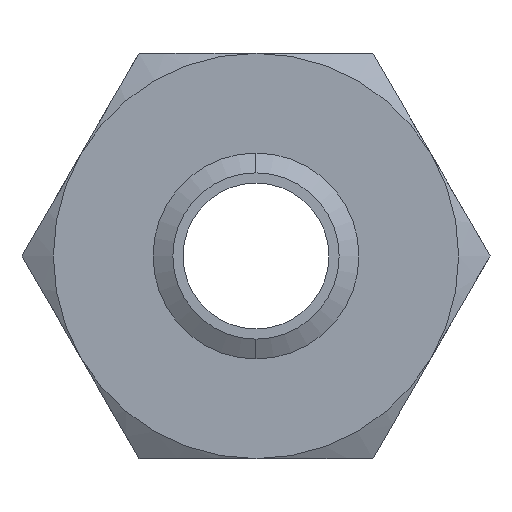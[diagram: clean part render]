
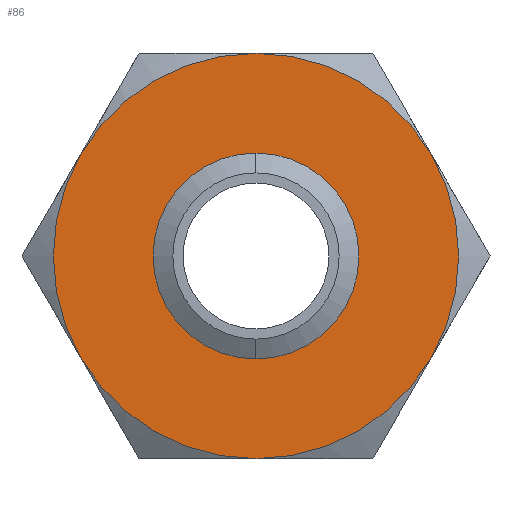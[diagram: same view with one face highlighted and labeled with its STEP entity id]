
A CAD part, front view. The second image highlights one B-rep face of the part: STEP entity #86.
In plain terms, the highlighted planar face has unit normal (0, -1, 0).
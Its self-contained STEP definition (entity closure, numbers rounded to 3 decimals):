
#58 = EDGE_CURVE ( 'NONE', #91, #71, #453, .T. ) ;
#59 = EDGE_LOOP ( 'NONE', ( #60, #61 ) ) ;
#60 = ORIENTED_EDGE ( 'NONE', *, *, #2152, .F. ) ;
#61 = ORIENTED_EDGE ( 'NONE', *, *, #62, .F. ) ;
#62 = EDGE_CURVE ( 'NONE', #2132, #2147, #448, .T. ) ;
#71 = VERTEX_POINT ( 'NONE', #492 ) ;
#86 = ADVANCED_FACE ( 'NONE', ( #516, #515 ), #514, .F. ) ;
#87 = EDGE_LOOP ( 'NONE', ( #88, #92, #95, #98, #101, #113 ) ) ;
#88 = ORIENTED_EDGE ( 'NONE', *, *, #89, .F. ) ;
#89 = EDGE_CURVE ( 'NONE', #90, #91, #511, .T. ) ;
#90 = VERTEX_POINT ( 'NONE', #504 ) ;
#91 = VERTEX_POINT ( 'NONE', #503 ) ;
#92 = ORIENTED_EDGE ( 'NONE', *, *, #93, .F. ) ;
#93 = EDGE_CURVE ( 'NONE', #94, #90, #502, .T. ) ;
#94 = VERTEX_POINT ( 'NONE', #559 ) ;
#95 = ORIENTED_EDGE ( 'NONE', *, *, #96, .F. ) ;
#96 = EDGE_CURVE ( 'NONE', #97, #94, #558, .T. ) ;
#97 = VERTEX_POINT ( 'NONE', #553 ) ;
#98 = ORIENTED_EDGE ( 'NONE', *, *, #99, .F. ) ;
#99 = EDGE_CURVE ( 'NONE', #100, #97, #552, .T. ) ;
#100 = VERTEX_POINT ( 'NONE', #547 ) ;
#101 = ORIENTED_EDGE ( 'NONE', *, *, #102, .F. ) ;
#102 = EDGE_CURVE ( 'NONE', #71, #100, #546, .T. ) ;
#113 = ORIENTED_EDGE ( 'NONE', *, *, #58, .F. ) ;
#444 = DIRECTION ( 'NONE',  ( 0., 0., -1. ) ) ;
#445 = DIRECTION ( 'NONE',  ( 0., -1., 0. ) ) ;
#446 = CARTESIAN_POINT ( 'NONE',  ( 0., 0., 0. ) ) ;
#447 = AXIS2_PLACEMENT_3D ( 'NONE', #446, #445, #444 ) ;
#448 = CIRCLE ( 'NONE', #447, 15.387 ) ;
#449 = DIRECTION ( 'NONE',  ( 0., 0., 1. ) ) ;
#450 = DIRECTION ( 'NONE',  ( 0., 1., 0. ) ) ;
#451 = CARTESIAN_POINT ( 'NONE',  ( 0., 0., 0. ) ) ;
#452 = AXIS2_PLACEMENT_3D ( 'NONE', #451, #450, #449 ) ;
#453 = CIRCLE ( 'NONE', #452, 37.5 ) ;
#492 = CARTESIAN_POINT ( 'NONE',  ( 32.476, 0., -18.75 ) ) ;
#501 = AXIS2_PLACEMENT_3D ( 'NONE', #562, #561, #560 ) ;
#502 = CIRCLE ( 'NONE', #501, 37.5 ) ;
#503 = CARTESIAN_POINT ( 'NONE',  ( 32.476, 0., 18.75 ) ) ;
#504 = CARTESIAN_POINT ( 'NONE',  ( 0., 0., 37.5 ) ) ;
#505 = DIRECTION ( 'NONE',  ( 0., 0., 1. ) ) ;
#506 = DIRECTION ( 'NONE',  ( 0., 1., 0. ) ) ;
#507 = CARTESIAN_POINT ( 'NONE',  ( 0., 0., 0. ) ) ;
#508 = AXIS2_PLACEMENT_3D ( 'NONE', #507, #506, #505 ) ;
#509 = DIRECTION ( 'NONE',  ( 0., 0., 1. ) ) ;
#510 = DIRECTION ( 'NONE',  ( 0., 1., 0. ) ) ;
#511 = CIRCLE ( 'NONE', #508, 37.5 ) ;
#512 = CARTESIAN_POINT ( 'NONE',  ( 21.651, 0., -37.5 ) ) ;
#513 = AXIS2_PLACEMENT_3D ( 'NONE', #512, #510, #509 ) ;
#514 = PLANE ( 'NONE',  #513 ) ;
#515 = FACE_BOUND ( 'NONE', #59, .T. ) ;
#516 = FACE_OUTER_BOUND ( 'NONE', #87, .T. ) ;
#542 = DIRECTION ( 'NONE',  ( 0., 0., 1. ) ) ;
#543 = DIRECTION ( 'NONE',  ( 0., 1., 0. ) ) ;
#544 = CARTESIAN_POINT ( 'NONE',  ( 0., 0., 0. ) ) ;
#545 = AXIS2_PLACEMENT_3D ( 'NONE', #544, #543, #542 ) ;
#546 = CIRCLE ( 'NONE', #545, 37.5 ) ;
#547 = CARTESIAN_POINT ( 'NONE',  ( 0., 0., -37.5 ) ) ;
#548 = DIRECTION ( 'NONE',  ( 0., 0., 1. ) ) ;
#549 = DIRECTION ( 'NONE',  ( 0., 1., 0. ) ) ;
#550 = CARTESIAN_POINT ( 'NONE',  ( 0., 0., 0. ) ) ;
#551 = AXIS2_PLACEMENT_3D ( 'NONE', #550, #549, #548 ) ;
#552 = CIRCLE ( 'NONE', #551, 37.5 ) ;
#553 = CARTESIAN_POINT ( 'NONE',  ( -32.476, 0., -18.75 ) ) ;
#554 = DIRECTION ( 'NONE',  ( 0., 0., 1. ) ) ;
#555 = DIRECTION ( 'NONE',  ( 0., 1., 0. ) ) ;
#556 = CARTESIAN_POINT ( 'NONE',  ( 0., 0., 0. ) ) ;
#557 = AXIS2_PLACEMENT_3D ( 'NONE', #556, #555, #554 ) ;
#558 = CIRCLE ( 'NONE', #557, 37.5 ) ;
#559 = CARTESIAN_POINT ( 'NONE',  ( -32.476, 0., 18.75 ) ) ;
#560 = DIRECTION ( 'NONE',  ( 0., 0., 1. ) ) ;
#561 = DIRECTION ( 'NONE',  ( 0., 1., 0. ) ) ;
#562 = CARTESIAN_POINT ( 'NONE',  ( 0., 0., 0. ) ) ;
#1532 = CARTESIAN_POINT ( 'NONE',  ( 0., 0., 15.387 ) ) ;
#1560 = CARTESIAN_POINT ( 'NONE',  ( 0., 0., -15.387 ) ) ;
#1610 = DIRECTION ( 'NONE',  ( 0., 0., -1. ) ) ;
#1611 = DIRECTION ( 'NONE',  ( 0., -1., 0. ) ) ;
#1612 = CARTESIAN_POINT ( 'NONE',  ( 0., 0., 0. ) ) ;
#1613 = AXIS2_PLACEMENT_3D ( 'NONE', #1612, #1611, #1610 ) ;
#1614 = CIRCLE ( 'NONE', #1613, 15.387 ) ;
#2132 = VERTEX_POINT ( 'NONE', #1532 ) ;
#2147 = VERTEX_POINT ( 'NONE', #1560 ) ;
#2152 = EDGE_CURVE ( 'NONE', #2147, #2132, #1614, .T. ) ;
